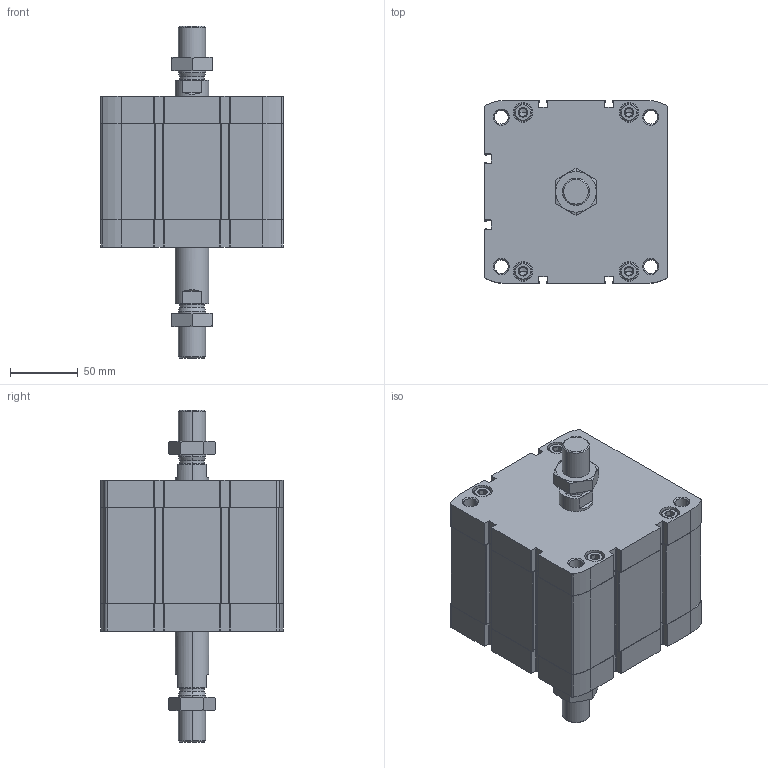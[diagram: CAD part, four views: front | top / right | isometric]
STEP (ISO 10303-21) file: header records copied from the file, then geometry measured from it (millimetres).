
FILE_DESCRIPTION (( 'STEP AP203' ), '1' );
FILE_NAME ('CCN125-30-P.STEP', '2020-06-22T19:13:47', ( '' ), ( '' ), 'SwSTEP 2.0', 'SolidWorks 2019', '' );
FILE_SCHEMA (( 'CONFIG_CONTROL_DESIGN' ));
Length unit declared in the file: millimetre
Products named in the file (1): CCN125-30-P
Bounding box: 134.6 x 134.6 x 244.4 mm (x, y, z)
Volume: 1627529.3 mm3; surface area: 231303.6 mm2
Topology: 4 solids, 4 shells, 592 faces, 1496 edges, 936 vertices
Faces by surface type: plane 288, cylinder 204, cone 92, torus 8
Entity records: 19603 total; most frequent: CARTESIAN_POINT 5061, DIRECTION 3146, ORIENTED_EDGE 2960, EDGE_CURVE 1480, AXIS2_PLACEMENT_3D 1165, VERTEX_POINT 936, LINE 816, VECTOR 816
